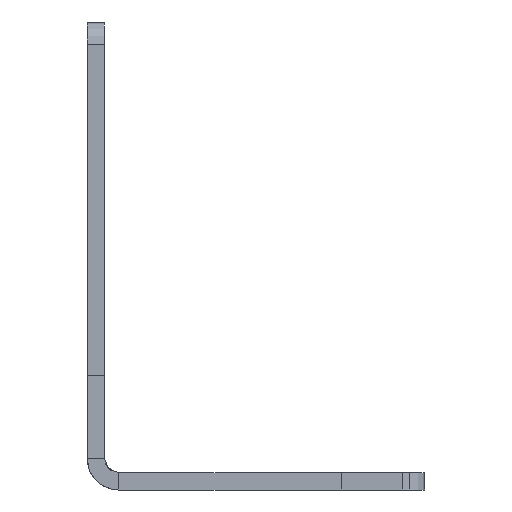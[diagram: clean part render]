
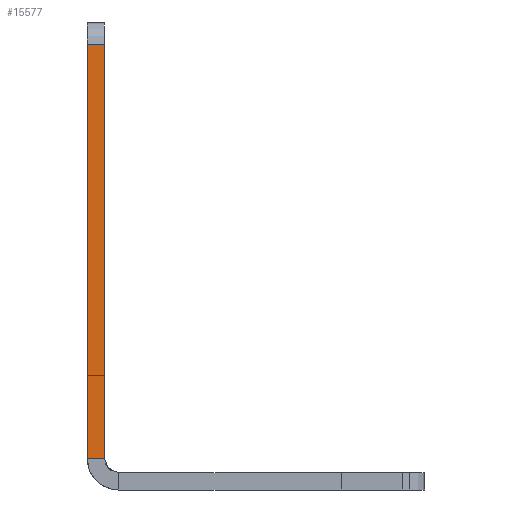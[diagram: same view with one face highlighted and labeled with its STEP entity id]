
A CAD part, front view. The second image highlights one B-rep face of the part: STEP entity #15577.
In plain terms, the highlighted free-form (B-spline) face has degree [1, 1] with [2, 2] control points.
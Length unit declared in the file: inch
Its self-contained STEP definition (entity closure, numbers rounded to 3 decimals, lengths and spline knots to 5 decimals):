
#15511=CARTESIAN_POINT('V285',(0.,0.0,2.5)
   );
#15512=VERTEX_POINT('V285',#15511);
#15526=CARTESIAN_POINT('V1126',(0.097,0.,
   2.5));
#15527=VERTEX_POINT('V1126',#15526);
#15528=CARTESIAN_POINT('E1542',(0.,0.0,2.5)
   );
#15529=CARTESIAN_POINT('E1542',(0.097,0.0,
   2.5));
#15530=QUASI_UNIFORM_CURVE('E1542',1,(#15528,#15529),.POLYLINE_FORM.,
   .F.,.U.);
#15531=EDGE_CURVE('E1542',#15512,#15527,#15530,.T.);
#15550=CARTESIAN_POINT('F201',(0.,0.0,2.5)
   );
#15551=CARTESIAN_POINT('F201',(0.0,0.0,0.177));
#15552=CARTESIAN_POINT('F201',(0.097,0.,
   2.5));
#15553=CARTESIAN_POINT('F201',(0.097,0.,
   0.177));
#15554=QUASI_UNIFORM_SURFACE('F201',1,1,((#15550,#15552),(#15551,
   #15553)),.PLANE_SURF.,.F.,.F.,.U.);
#15555=CARTESIAN_POINT('V286',(0.0,0.0,0.177));
#15556=VERTEX_POINT('V286',#15555);
#15557=CARTESIAN_POINT('E423',(0.,0.0,2.5)
   );
#15558=CARTESIAN_POINT('E423',(0.0,0.0,0.177));
#15559=QUASI_UNIFORM_CURVE('E423',1,(#15557,#15558),.POLYLINE_FORM.,
   .F.,.U.);
#15560=EDGE_CURVE('E423',#15512,#15556,#15559,.T.);
#15561=ORIENTED_EDGE('E423',*,*,#15560,.T.);
#15562=CARTESIAN_POINT('V1122',(0.097,0.0,
   0.177));
#15563=VERTEX_POINT('V1122',#15562);
#15564=CARTESIAN_POINT('E1543',(0.0,0.0,0.177));
#15565=CARTESIAN_POINT('E1543',(0.097,0.,
   0.177));
#15566=QUASI_UNIFORM_CURVE('E1543',1,(#15564,#15565),.POLYLINE_FORM.,
   .F.,.U.);
#15567=EDGE_CURVE('E1543',#15556,#15563,#15566,.T.);
#15568=ORIENTED_EDGE('E1543',*,*,#15567,.T.);
#15569=CARTESIAN_POINT('E1270',(0.097,0.,
   2.5));
#15570=CARTESIAN_POINT('E1270',(0.097,0.,
   0.177));
#15571=B_SPLINE_CURVE_WITH_KNOTS('E1270',1,(#15569,#15570),
   .POLYLINE_FORM.,.F.,.U.,(2,2),(0.0129,
   0.86017),.UNSPECIFIED.);
#15572=EDGE_CURVE('E1270',#15527,#15563,#15571,.T.);
#15573=ORIENTED_EDGE('E1270',*,*,#15572,.F.);
#15574=ORIENTED_EDGE('E1542',*,*,#15531,.F.);
#15575=EDGE_LOOP('F201',(#15561,#15568,#15573,#15574));
#15576=FACE_OUTER_BOUND('F201',#15575,.T.);
#15577=ADVANCED_FACE('F201',(#15576),#15554,.T.);
